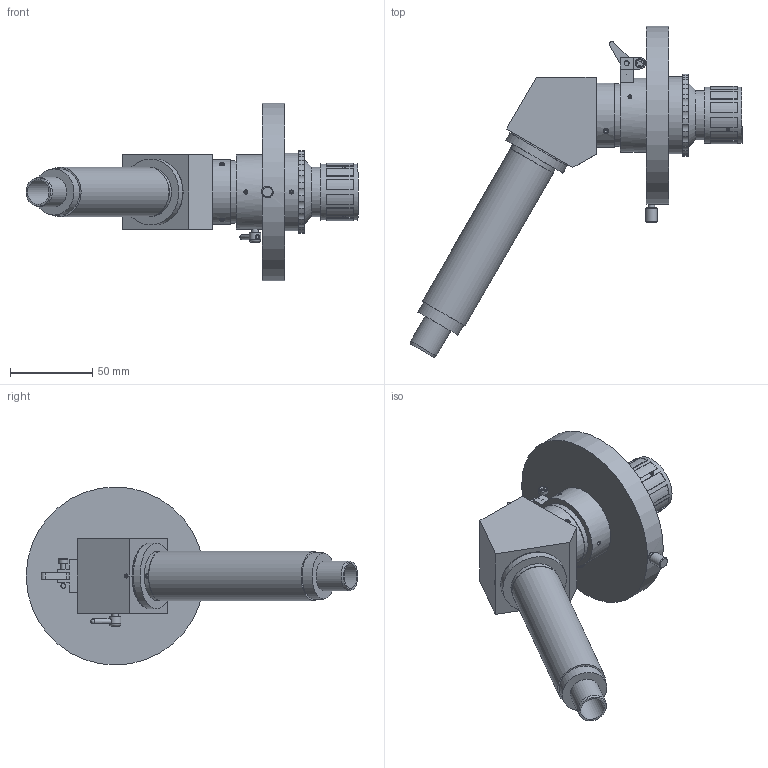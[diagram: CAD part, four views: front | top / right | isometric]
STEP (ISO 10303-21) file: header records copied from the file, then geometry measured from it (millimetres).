
FILE_DESCRIPTION(/* description */ (''),/* implementation_level */ '2;1');
FILE_NAME(/* name */ 'S:\Bureau-Technique\Microscope\MA 130GW-110.stp',/* time_stamp */ '2017-04-20T17:30:24+02:00',/* author */ ('ms'),/* organization */ ('Marcel Aubert'),/* preprocessor_version */ 'ST-DEVELOPER v16.5',/* originating_system */ 'Autodesk Inventor 2017',/* authorisation */ '');
FILE_SCHEMA (('AUTOMOTIVE_DESIGN { 1 0 10303 214 3 1 1 }'));
Products named in the file (1): Pièce1
Bounding box: 201.45 x 201.19 x 108 mm (x, y, z)
Volume: 293397.7 mm3; surface area: 107707.5 mm2
Topology: 1 solids, 49 shells, 2697 faces, 6406 edges, 4254 vertices
Faces by surface type: plane 1917, cylinder 651, cone 97, sphere 15, torus 14, bspline 3
Full cylindrical faces by diameter (mm): 1.567 x1, 1.75 x1, 2.013 x3, 2.2 x4, 2.459 x19, 2.693 x3, 3 x17, 3.2 x5, 3.242 x5, 3.3 x1, 3.6 x3, 4 x6, 5 x2, 5.2 x2, 5.5 x1, 6 x3, 7 x2, 14 x3, 14.2 x1, 15 x3, 16 x1, 16.4 x1, 17 x3, 18 x3, 19 x7, 19.459 x1, 19.5 x1, 20 x4, 20.5 x1, 21 x6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
Entity records: 79585 total; most frequent: CARTESIAN_POINT 15042, DIRECTION 12632, ORIENTED_EDGE 12044, EDGE_CURVE 6008, LINE 4320, VECTOR 4320, AXIS2_PLACEMENT_3D 4156, VERTEX_POINT 4123
